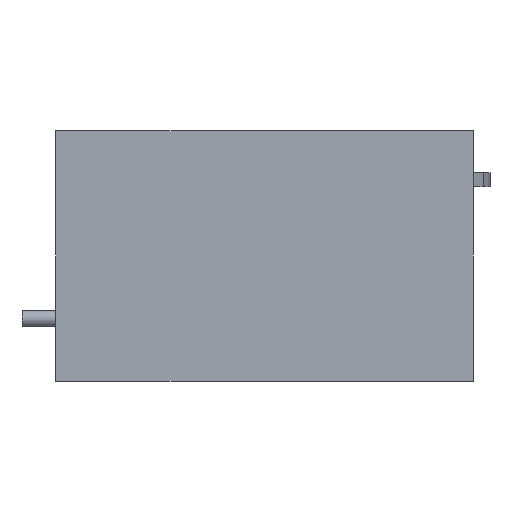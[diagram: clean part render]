
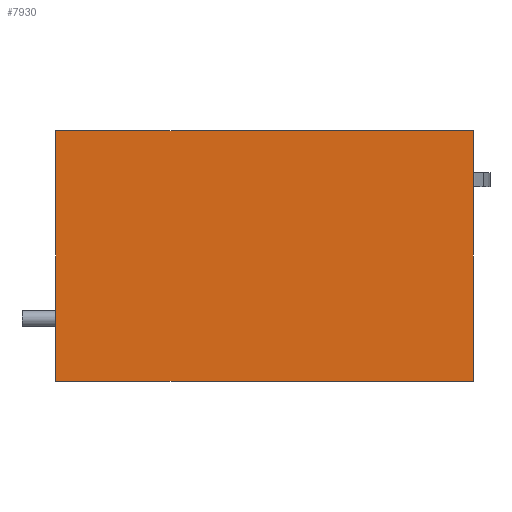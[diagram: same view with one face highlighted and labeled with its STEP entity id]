
A CAD part, front view. The second image highlights one B-rep face of the part: STEP entity #7930.
In plain terms, the highlighted planar face has unit normal (0, -1, 0).
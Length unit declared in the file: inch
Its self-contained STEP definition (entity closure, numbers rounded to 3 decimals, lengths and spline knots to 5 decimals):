
#1567 = VERTEX_POINT ( 'NONE', #4046 ) ;
#1573 = VERTEX_POINT ( 'NONE', #4015 ) ;
#1574 = VERTEX_POINT ( 'NONE', #4023 ) ;
#1607 = VERTEX_POINT ( 'NONE', #4057 ) ;
#1765 = PLANE ( 'NONE',  #7011 ) ;
#1766 = CARTESIAN_POINT ( 'NONE',  ( 0., 0., -6. ) ) ;
#1779 = DIRECTION ( 'NONE',  ( 0., -1., 0. ) ) ;
#1780 = DIRECTION ( 'NONE',  ( 0., 0., -1. ) ) ;
#1867 = EDGE_LOOP ( 'NONE', ( #11889, #11869, #11861, #11849 ) ) ;
#2596 = EDGE_CURVE ( 'NONE', #1573, #1574, #2620, .T. ) ;
#2606 = EDGE_CURVE ( 'NONE', #1574, #1607, #2635, .T. ) ;
#2620 = LINE ( 'NONE', #9006, #2713 ) ;
#2631 = VECTOR ( 'NONE', #9079, 39.37008 ) ;
#2635 = LINE ( 'NONE', #9074, #2631 ) ;
#2688 = EDGE_CURVE ( 'NONE', #1607, #1567, #2757, .T. ) ;
#2713 = VECTOR ( 'NONE', #9023, 39.37008 ) ;
#2757 = LINE ( 'NONE', #9165, #2760 ) ;
#2760 = VECTOR ( 'NONE', #9160, 39.37008 ) ;
#2787 = EDGE_CURVE ( 'NONE', #1567, #1573, #2935, .T. ) ;
#2935 = LINE ( 'NONE', #9216, #2937 ) ;
#2937 = VECTOR ( 'NONE', #9248, 39.37008 ) ;
#3655 = FACE_OUTER_BOUND ( 'NONE', #1867, .T. ) ;
#4015 = CARTESIAN_POINT ( 'NONE',  ( 10., 0., -6. ) ) ;
#4023 = CARTESIAN_POINT ( 'NONE',  ( 0., 0., -6. ) ) ;
#4046 = CARTESIAN_POINT ( 'NONE',  ( 10., 0., 0. ) ) ;
#4057 = CARTESIAN_POINT ( 'NONE',  ( 0., 0., 0. ) ) ;
#7011 = AXIS2_PLACEMENT_3D ( 'NONE', #1766, #1779, #1780 ) ;
#7930 = ADVANCED_FACE ( 'NONE', ( #3655 ), #1765, .T. ) ;
#9006 = CARTESIAN_POINT ( 'NONE',  ( 0., 0., -6. ) ) ;
#9023 = DIRECTION ( 'NONE',  ( -1., 0., 0. ) ) ;
#9074 = CARTESIAN_POINT ( 'NONE',  ( 0., 0., 0. ) ) ;
#9079 = DIRECTION ( 'NONE',  ( 0., 0., 1. ) ) ;
#9160 = DIRECTION ( 'NONE',  ( 1., 0., 0. ) ) ;
#9165 = CARTESIAN_POINT ( 'NONE',  ( 0., 0., 0. ) ) ;
#9216 = CARTESIAN_POINT ( 'NONE',  ( 10., 0., 0. ) ) ;
#9248 = DIRECTION ( 'NONE',  ( 0., 0., -1. ) ) ;
#11849 = ORIENTED_EDGE ( 'NONE', *, *, #2688, .F. ) ;
#11861 = ORIENTED_EDGE ( 'NONE', *, *, #2787, .F. ) ;
#11869 = ORIENTED_EDGE ( 'NONE', *, *, #2596, .F. ) ;
#11889 = ORIENTED_EDGE ( 'NONE', *, *, #2606, .F. ) ;
